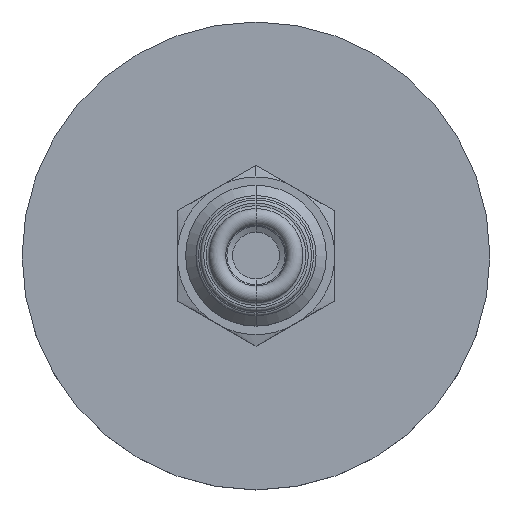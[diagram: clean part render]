
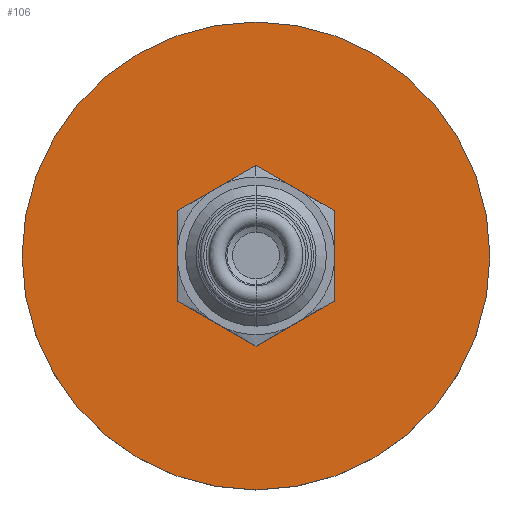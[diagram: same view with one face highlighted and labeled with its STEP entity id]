
A CAD part, top view. The second image highlights one B-rep face of the part: STEP entity #106.
In plain terms, the highlighted planar face has unit normal (0, 0, 1).
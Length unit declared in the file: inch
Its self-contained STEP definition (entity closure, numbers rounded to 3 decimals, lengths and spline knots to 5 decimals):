
#34 = EDGE_LOOP ( 'NONE', ( #35, #36 ) ) ;
#35 = ORIENTED_EDGE ( 'NONE', *, *, #1681, .T. ) ;
#36 = ORIENTED_EDGE ( 'NONE', *, *, #45, .T. ) ;
#37 = EDGE_LOOP ( 'NONE', ( #46, #47, #48, #49, #50, #51 ) ) ;
#45 = EDGE_CURVE ( 'NONE', #1834, #1684, #495, .T. ) ;
#46 = ORIENTED_EDGE ( 'NONE', *, *, #1715, .T. ) ;
#47 = ORIENTED_EDGE ( 'NONE', *, *, #1557, .T. ) ;
#48 = ORIENTED_EDGE ( 'NONE', *, *, #1802, .T. ) ;
#49 = ORIENTED_EDGE ( 'NONE', *, *, #1661, .T. ) ;
#50 = ORIENTED_EDGE ( 'NONE', *, *, #1698, .T. ) ;
#51 = ORIENTED_EDGE ( 'NONE', *, *, #1674, .T. ) ;
#106 = ADVANCED_FACE ( 'NONE', ( #480, #479 ), #478, .F. ) ;
#474 = DIRECTION ( 'NONE',  ( -1., 0., 0. ) ) ;
#475 = DIRECTION ( 'NONE',  ( 0., 0., -1. ) ) ;
#476 = CARTESIAN_POINT ( 'NONE',  ( 0., 0., -0.923 ) ) ;
#477 = AXIS2_PLACEMENT_3D ( 'NONE', #476, #475, #474 ) ;
#478 = PLANE ( 'NONE',  #477 ) ;
#479 = FACE_BOUND ( 'NONE', #37, .T. ) ;
#480 = FACE_OUTER_BOUND ( 'NONE', #34, .T. ) ;
#491 = DIRECTION ( 'NONE',  ( 1., 0., 0. ) ) ;
#492 = DIRECTION ( 'NONE',  ( 0., 0., 1. ) ) ;
#493 = CARTESIAN_POINT ( 'NONE',  ( 0., 0., -0.923 ) ) ;
#494 = AXIS2_PLACEMENT_3D ( 'NONE', #493, #492, #491 ) ;
#495 = CIRCLE ( 'NONE', #494, 0.935 ) ;
#574 = CARTESIAN_POINT ( 'NONE',  ( 0., -0.36084, -0.923 ) ) ;
#575 = DIRECTION ( 'NONE',  ( -0.866, 0.5, 0. ) ) ;
#576 = VECTOR ( 'NONE', #575, 39.37008 ) ;
#577 = CARTESIAN_POINT ( 'NONE',  ( 0., -0.36084, -0.923 ) ) ;
#578 = LINE ( 'NONE', #577, #576 ) ;
#579 = CARTESIAN_POINT ( 'NONE',  ( -0.3125, -0.18042, -0.923 ) ) ;
#896 = CARTESIAN_POINT ( 'NONE',  ( 0.935, 0., -0.923 ) ) ;
#897 = DIRECTION ( 'NONE',  ( 1., 0., 0. ) ) ;
#898 = DIRECTION ( 'NONE',  ( 0., 0., 1. ) ) ;
#899 = CARTESIAN_POINT ( 'NONE',  ( 0., 0., -0.923 ) ) ;
#900 = AXIS2_PLACEMENT_3D ( 'NONE', #899, #898, #897 ) ;
#901 = CIRCLE ( 'NONE', #900, 0.935 ) ;
#917 = DIRECTION ( 'NONE',  ( 0., -1., 0. ) ) ;
#918 = VECTOR ( 'NONE', #917, 39.37008 ) ;
#919 = CARTESIAN_POINT ( 'NONE',  ( 0.3125, 0.18042, -0.923 ) ) ;
#920 = LINE ( 'NONE', #919, #918 ) ;
#921 = CARTESIAN_POINT ( 'NONE',  ( 0.3125, -0.18042, -0.923 ) ) ;
#936 = DIRECTION ( 'NONE',  ( 0.866, 0.5, 0. ) ) ;
#937 = VECTOR ( 'NONE', #936, 39.37008 ) ;
#938 = CARTESIAN_POINT ( 'NONE',  ( -0.3125, 0.18042, -0.923 ) ) ;
#939 = LINE ( 'NONE', #938, #937 ) ;
#940 = CARTESIAN_POINT ( 'NONE',  ( 0., 0.36084, -0.923 ) ) ;
#994 = DIRECTION ( 'NONE',  ( 0.866, -0.5, 0. ) ) ;
#995 = VECTOR ( 'NONE', #994, 39.37008 ) ;
#996 = CARTESIAN_POINT ( 'NONE',  ( 0., 0.36084, -0.923 ) ) ;
#997 = LINE ( 'NONE', #996, #995 ) ;
#1104 = CARTESIAN_POINT ( 'NONE',  ( 0.3125, 0.18042, -0.923 ) ) ;
#1157 = DIRECTION ( 'NONE',  ( 0., 1., 0. ) ) ;
#1158 = VECTOR ( 'NONE', #1157, 39.37008 ) ;
#1159 = CARTESIAN_POINT ( 'NONE',  ( -0.3125, -0.18042, -0.923 ) ) ;
#1160 = LINE ( 'NONE', #1159, #1158 ) ;
#1161 = CARTESIAN_POINT ( 'NONE',  ( -0.3125, 0.18042, -0.923 ) ) ;
#1186 = DIRECTION ( 'NONE',  ( -0.866, -0.5, 0. ) ) ;
#1187 = VECTOR ( 'NONE', #1186, 39.37008 ) ;
#1188 = CARTESIAN_POINT ( 'NONE',  ( 0.3125, -0.18042, -0.923 ) ) ;
#1189 = LINE ( 'NONE', #1188, #1187 ) ;
#1372 = CARTESIAN_POINT ( 'NONE',  ( -0.935, 0., -0.923 ) ) ;
#1555 = VERTEX_POINT ( 'NONE', #579 ) ;
#1557 = EDGE_CURVE ( 'NONE', #1558, #1555, #578, .T. ) ;
#1558 = VERTEX_POINT ( 'NONE', #574 ) ;
#1659 = VERTEX_POINT ( 'NONE', #940 ) ;
#1661 = EDGE_CURVE ( 'NONE', #1800, #1659, #939, .T. ) ;
#1672 = VERTEX_POINT ( 'NONE', #921 ) ;
#1674 = EDGE_CURVE ( 'NONE', #1696, #1672, #920, .T. ) ;
#1681 = EDGE_CURVE ( 'NONE', #1684, #1834, #901, .T. ) ;
#1684 = VERTEX_POINT ( 'NONE', #896 ) ;
#1696 = VERTEX_POINT ( 'NONE', #1104 ) ;
#1698 = EDGE_CURVE ( 'NONE', #1659, #1696, #997, .T. ) ;
#1715 = EDGE_CURVE ( 'NONE', #1672, #1558, #1189, .T. ) ;
#1800 = VERTEX_POINT ( 'NONE', #1161 ) ;
#1802 = EDGE_CURVE ( 'NONE', #1555, #1800, #1160, .T. ) ;
#1834 = VERTEX_POINT ( 'NONE', #1372 ) ;
